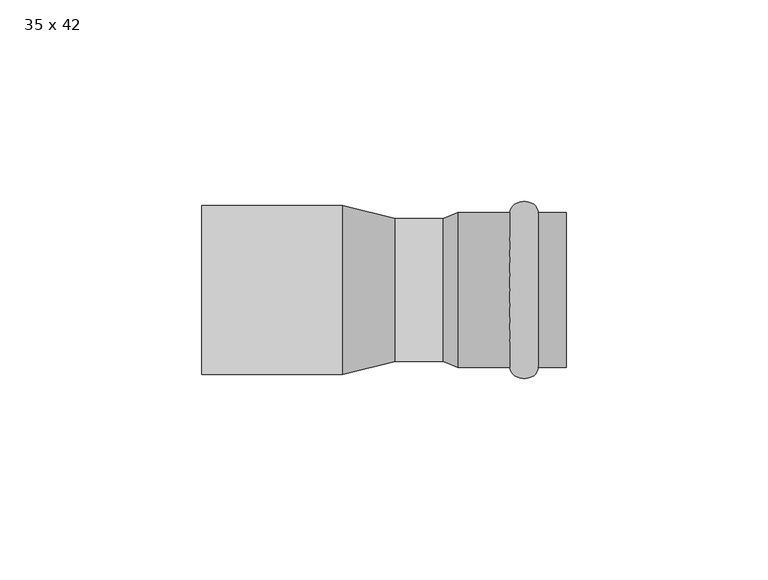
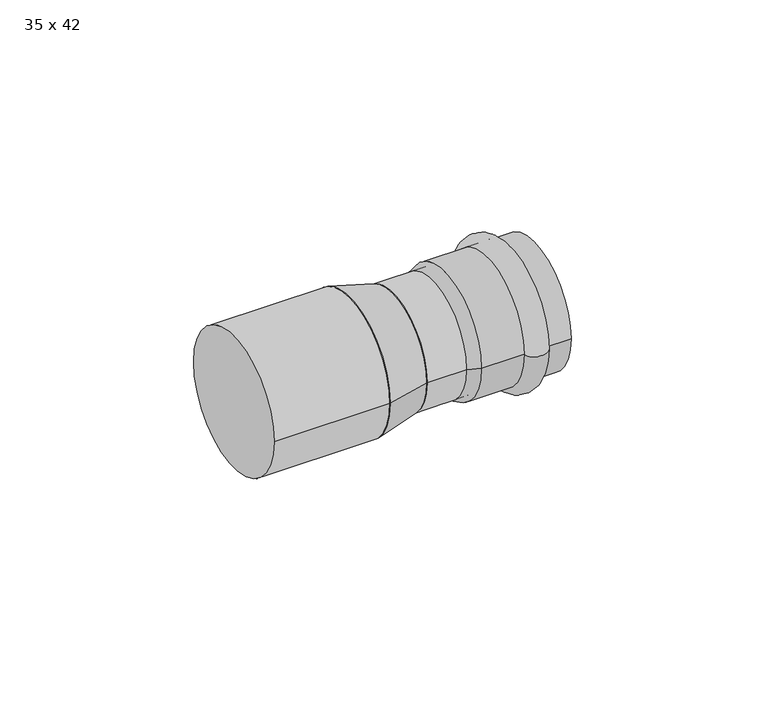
"""IFC4 building model written with IfcOpenShell, lengths in millimetres: pipe fitting geometry, РЕХАУ_Пресс Вставка переходная : 35 x 42."""

from ifc_helpers import new_model, si_unit, point, frame, origin, origin_2d, place, context, project, spatial, polyline, circle_curve, ellipse_curve, trimmed, segment, composite_curve, outline, extrude, source, transform, mapped, element, save
from ifc_brep_helpers import plane_surface, cylinder_surface, revolved_surface, advanced_brep


def pipe_fitting_35_x_42_b9f03091(model_context):
    return source(origin(), model_context, "Body", "SolidModel", [
        advanced_brep(
        [(83.5, 19.25, 0.0), (83.5, -19.25, 0.0), (76.5, -19.25, 0.0), (76.5, 19.25, 0.0)],
        [
            (0, 1, circle_curve(frame((83.5, 0.0, 0.0), z_axis=(1.0, 0.0, 0.0), x_axis=(0.0, -1.0, 0.0)), 19.25)),
            (1, 2),
            (2, 3, circle_curve(frame((76.5, 0.0, 0.0), z_axis=(-1.0, 0.0, 0.0), x_axis=(0.0, -1.0, 0.0)), 19.25)),
            (3, 0),
            (1, 0, circle_curve(frame((83.5, 0.0, 0.0), z_axis=(1.0, 0.0, 0.0), x_axis=(0.0, -1.0, 0.0)), 19.25)),
            (3, 2, circle_curve(frame((76.5, 0.0, 0.0), z_axis=(-1.0, 0.0, 0.0), x_axis=(0.0, -1.0, 0.0)), 19.25)),
            (2, 1, ellipse_curve(frame((80.0, -19.25, 0.0), z_axis=(0.0, 0.0, 1.0), x_axis=(1.0, 0.0, 0.0)), 3.5, 2.75)),
            (0, 3, ellipse_curve(frame((80.0, 19.25, 0.0), z_axis=(0.0, 0.0, 1.0), x_axis=(1.0, 0.0, 0.0)), 3.5, 2.75)),
        ],
        [
            revolved_surface(polyline([(76.5, -19.25, 0.0), (83.5, -19.25, 0.0)]), (60.5, 0.0, 0.0), (-1.0, 0.0, 0.0)),
            revolved_surface(trimmed(ellipse_curve(frame((80.0, -19.25, 0.0), z_axis=(0.0, 0.0, -1.0), x_axis=(1.0, 0.0, 0.0)), 3.5, 2.75), [point((83.5, -19.25, 0.0))], [point((76.5, -19.25, 0.0))], True, "CARTESIAN"), (60.5, 0.0, 0.0), (-1.0, 0.0, 0.0)),
        ],
        [
            (0, [[1, 2, 3, 4]]),
            (0, [[5, -4, 6, -2]]),
            (1, [[-3, 7, -1, 8]]),
            (1, [[-6, -8, -5, -7]]),
        ],
    ),
        advanced_brep(
        [(59.9662215, 17.75, 0.0), (59.9662215, -17.75, 0.0), (63.5, -19.25, 0.0), (63.5, 19.25, 0.0), (90.5, 17.75, 0.0), (90.5, -17.75, 0.0), (90.5, 19.25, 0.0), (90.5, -19.25, 0.0)],
        [
            (0, 1, circle_curve(frame((59.9662215, 0.0, 0.0), z_axis=(1.0, 0.0, 0.0), x_axis=(0.0, -1.0, 0.0)), 17.75)),
            (1, 2),
            (2, 3, circle_curve(frame((63.5, 0.0, 0.0), z_axis=(-1.0, 0.0, 0.0), x_axis=(0.0, -1.0, 0.0)), 19.25)),
            (3, 0),
            (1, 0, circle_curve(frame((59.9662215, 0.0, 0.0), z_axis=(1.0, 0.0, 0.0), x_axis=(0.0, -1.0, 0.0)), 17.75)),
            (3, 2, circle_curve(frame((63.5, 0.0, 0.0), z_axis=(-1.0, 0.0, 0.0), x_axis=(0.0, -1.0, 0.0)), 19.25)),
            (4, 5, circle_curve(frame((90.5, 0.0, 0.0), z_axis=(1.0, 0.0, 0.0), x_axis=(0.0, -1.0, 0.0)), 17.75)),
            (5, 1),
            (0, 4),
            (5, 4, circle_curve(frame((90.5, 0.0, 0.0), z_axis=(1.0, 0.0, 0.0), x_axis=(0.0, -1.0, 0.0)), 17.75)),
            (6, 7, circle_curve(frame((90.5, 0.0, 0.0), z_axis=(1.0, 0.0, 0.0), x_axis=(0.0, -1.0, 0.0)), 19.25)),
            (7, 5),
            (4, 6),
            (7, 6, circle_curve(frame((90.5, 0.0, 0.0), z_axis=(1.0, 0.0, 0.0), x_axis=(0.0, -1.0, 0.0)), 19.25)),
            (2, 7),
            (6, 3),
        ],
        [
            revolved_surface(polyline([(63.5, -19.25, 0.0), (59.9662215, -17.75, 0.0)]), (60.5, 0.0, 0.0), (-1.0, 0.0, 0.0)),
            revolved_surface(polyline([(59.9662215, -17.75, 0.0), (90.5, -17.75, 0.0)]), (60.5, 0.0, 0.0), (-1.0, 0.0, 0.0)),
            plane_surface(frame((90.5, 0.0, 0.0), z_axis=(1.0, 0.0, 0.0), x_axis=(0.0, -1.0, 0.0))),
            cylinder_surface(frame((60.5, 0.0, 0.0), z_axis=(-1.0, 0.0, 0.0), x_axis=(0.0, -1.0, 0.0)), 19.25),
        ],
        [
            (0, [[1, 2, 3, 4]]),
            (0, [[5, -4, 6, -2]]),
            (1, [[7, 8, -1, 9]]),
            (1, [[10, -9, -5, -8]]),
            (2, [[11, 12, -7, 13]]),
            (2, [[14, -13, -10, -12]]),
            (3, [[-3, 15, -11, 16]]),
            (3, [[-6, -16, -14, -15]]),
        ],
    ),
        extrude(outline(composite_curve([segment(trimmed(circle_curve(origin_2d(), 17.75), [point((-17.75, 0.0))], [point((17.75, 0.0))], False, "CARTESIAN"), True, "CONTINUOUS"), segment(trimmed(circle_curve(origin_2d(), 17.75), [point((17.75, 0.0))], [point((-17.75, 0.0))], False, "CARTESIAN"), True, "CONTINUOUS")], self_intersect=False)), frame((48.0, 0.0, 0.0), z_axis=(1.0, 0.0, 0.0), x_axis=(0.0, 1.0, 0.0)), (0.0, 0.0, 1.0), 15.5),
        advanced_brep(
        [(48.0, -17.75, 0.0), (48.0, 17.75, 0.0), (35.0, -21.0, 0.0), (35.0, 21.0, 0.0)],
        [
            (0, 1, circle_curve(frame((48.0, 0.0, 0.0), z_axis=(1.0, 0.0, 0.0), x_axis=(0.0, -1.0, 0.0)), 17.75)),
            (1, 0, circle_curve(frame((48.0, 0.0, 0.0), z_axis=(1.0, 0.0, 0.0), x_axis=(0.0, 1.0, 0.0)), 17.75)),
            (2, 3, circle_curve(frame((35.0, 0.0, 0.0), z_axis=(-1.0, 0.0, 0.0), x_axis=(0.0, 1.0, 0.0)), 21.0)),
            (3, 2, circle_curve(frame((35.0, 0.0, 0.0), z_axis=(-1.0, 0.0, 0.0), x_axis=(0.0, -1.0, 0.0)), 21.0)),
            (3, 1),
            (0, 2),
        ],
        [
            plane_surface(frame((48.0, 0.0, 0.0), z_axis=(1.0, 0.0, 0.0), x_axis=(0.0, 0.0, -1.0))),
            plane_surface(frame((35.0, 0.0, 0.0), z_axis=(-1.0, 0.0, 0.0), x_axis=(0.0, 0.0, -1.0))),
            revolved_surface(polyline([(48.0, -17.75, 0.0), (35.0, -21.0, 0.0)]), (119.0, 0.0, 0.0), (-1.0, 0.0, 0.0)),
            revolved_surface(polyline([(48.0, 17.75, 0.0), (35.0, 21.0, 0.0)]), (119.0, 0.0, 0.0), (-1.0, 0.0, 0.0)),
        ],
        [
            (0, [[1, 2]]),
            (1, [[3, 4]]),
            (2, [[-4, 5, -1, 6]]),
            (3, [[-3, -6, -2, -5]]),
        ],
    ),
        extrude(outline(composite_curve([segment(trimmed(circle_curve(origin_2d(), 21.0), [point((-21.0, 0.0))], [point((21.0, 0.0))], False, "CARTESIAN"), True, "CONTINUOUS"), segment(trimmed(circle_curve(origin_2d(), 21.0), [point((21.0, 0.0))], [point((-21.0, 0.0))], False, "CARTESIAN"), True, "CONTINUOUS")], self_intersect=False)), frame((0.0, 0.0, 0.0), z_axis=(1.0, 0.0, 0.0), x_axis=(0.0, 1.0, 0.0)), (0.0, 0.0, 1.0), 35.0),
    ])


if __name__ == "__main__":
    model = new_model("IFC4")
    model_context = context("Model", 3, world=origin())
    ifc_project = project(units=[si_unit("LENGTHUNIT", "METRE", prefix="MILLI")], contexts=[model_context])
    site = spatial("IfcSite", under=ifc_project)
    building = spatial("IfcBuilding", under=site)
    placement = place(None, origin())
    pipe_fitting_35_x_42_shape = pipe_fitting_35_x_42_b9f03091(model_context)
    element("IfcPipeFitting", 1, ObjectType="РЕХАУ_Пресс Вставка переходная : 35 x 42", at=placement, inside=building, context=model_context, shape_type="MappedRepresentation", body=[
        mapped(pipe_fitting_35_x_42_shape, transform((0.0, 0.0, 0.0), x_axis=(1.0, 0.0, 0.0), y_axis=(0.0, 1.0, 0.0), z_axis=(0.0, 0.0, 1.0))),
    ])
    save(model, "model.ifc")
